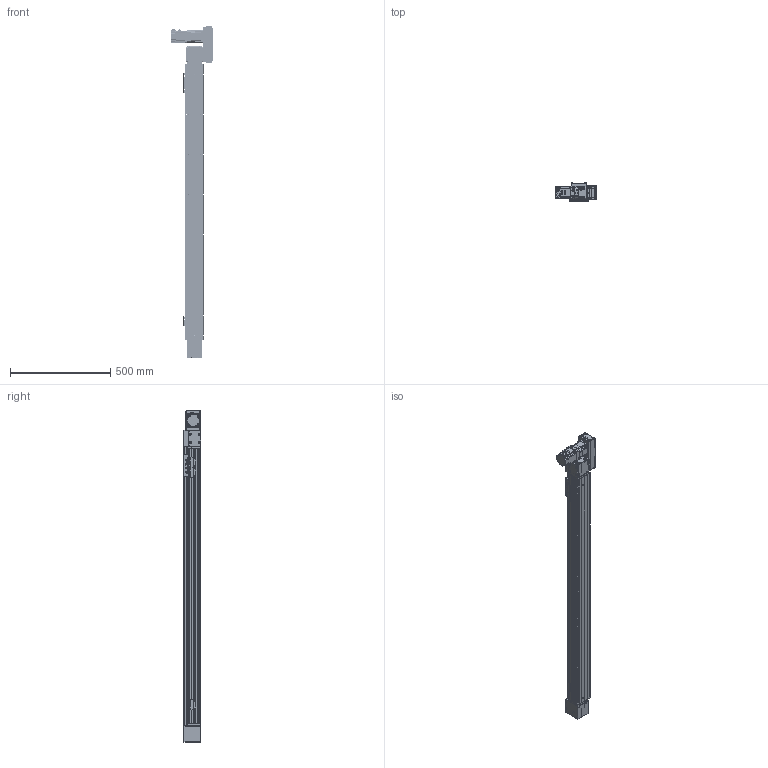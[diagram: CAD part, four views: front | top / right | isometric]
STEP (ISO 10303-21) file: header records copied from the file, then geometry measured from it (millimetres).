
FILE_DESCRIPTION(/* description */ ('MANUFACTURE'),/* implementation_level */ '2;1');
FILE_NAME(/* name */ '\\192.168.0.160\disk1\HAN SHIN Master\B-설계부문\C-표준\B-2024년\BC02-표준도면\+로봇 개선표준도면\홈페이지 표준 도면\홈페이지 최종 작업 폴더\3D\HSB\HSB75\R\HSB75-R2G-N-1200-L.stp',/* time_stamp */ '2025-04-30T13:48:54+09:00',/* author */ ('user'),/* organization */ (''),/* preprocessor_version */ 'ST-DEVELOPER v18.1',/* originating_system */ 'Autodesk Inventor 2022',/* authorisation */ 'LIP');
FILE_SCHEMA (('CONFIG_CONTROL_DESIGN'));
Products named in the file (37): HSB75-R2G-N-0500-L; HSB75 BASE; HSB75 TABLE; HSB75 FRONT HOUSING (Connecting); HSB75 FRONT COVER; UPCOVER; HS75 SIDE COVER; HSB75 REAR HOUSING; HSB75 REAR PULLEY; HSB55 REAR SHAFT; HSB55 TENSION PLATE; 6002ZZ; 6002ZZ Outer ring; 6002ZZ Shield1; 6002ZZ Inner ring; 6002ZZ Ball; 6002ZZ Shield2; HG90STOPPER - 27L; HSB55 ACRYL COVER; HSB75 ACRYL COVER-END; PGX62-H-1_3; hg-kr23_; MOTOR PLATE-200W(MITSUBISHI); HR75-LR-BELT COVER(200W); HR75-BELT COVER-COVER; HR75-BELT COVER-COVER2; HR65-BELT COVER-COVER3; HS75 SENSOR DOG-1; NIPPLE CAP(신규); hsr_ftht_A-M6F_grease_nipple_joint; HSB160 BEARING OVER; HSB75 END COVER; HSB75 MOTOR PLATE-N_대칭도; HSB160 SHAFT-1; C-E6304ZZ; SENSOR BRK(EE-SX674A); EE_SX674A
Assembly tree (63 placements, depth 3):
  HSB75-R2G-N-0500-L
    HSB75 BASE
    HSB75 TABLE
    HSB75 FRONT HOUSING (Connecting)
    HSB75 FRONT COVER  x2
    UPCOVER
    HS75 SIDE COVER  x2
    HSB75 REAR HOUSING
    HSB75 REAR PULLEY
    HSB55 REAR SHAFT
    HSB55 TENSION PLATE  x2
    6002ZZ  x2
      6002ZZ Outer ring
      6002ZZ Shield1
      6002ZZ Inner ring
      6002ZZ Ball
      6002ZZ Shield2
    HG90STOPPER - 27L  x2
    HSB55 ACRYL COVER  x3
    HSB75 ACRYL COVER-END
    PGX62-H-1_3
    hg-kr23_
    MOTOR PLATE-200W(MITSUBISHI)
    HR75-LR-BELT COVER(200W)
    HR75-BELT COVER-COVER
    HR75-BELT COVER-COVER2
    HR65-BELT COVER-COVER3  x2
    EE_SX674A  x3
    SENSOR BRK(EE-SX674A)  x3
    HS75 SENSOR DOG-1
    NIPPLE CAP(신규)  x2
    hsr_ftht_A-M6F_grease_nipple_joint  x2
    HSB160 BEARING OVER
    HSB75 END COVER
    HSB75 MOTOR PLATE-N_대칭도
    HSB160 SHAFT-1
    C-E6304ZZ  x2
Bounding box: 206.6 x 89 x 1656 mm (x, y, z)
Volume: 4640494.3 mm3; surface area: 1781772 mm2
Topology: 95 solids, 95 shells, 5250 faces, 14495 edges, 9539 vertices
Faces by surface type: plane 3779, cylinder 1069, cone 296, torus 45, sphere 42, bspline 19
Full cylindrical faces by diameter (mm): 2 x12, 2.013 x4, 2.459 x64, 3 x10, 3.242 x34, 3.3 x5, 3.4 x20, 3.5 x22, 4 x1, 4.134 x53, 4.2 x10, 4.343 x2, 4.5 x30, 4.917 x20, 5 x28, 5.5 x40, 5.6 x10, 5.8 x4, 5.9 x8, 6 x6, 6.5 x4, 7 x1, 8 x9, 8.5 x4, 9 x12, 9.5 x24, 12 x2, 14 x1, 14.2 x1, 14.3 x2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
Entity records: 140882 total; most frequent: CARTESIAN_POINT 27949, ORIENTED_EDGE 23126, DIRECTION 22309, EDGE_CURVE 11563, LINE 8727, VECTOR 8727, VERTEX_POINT 7668, AXIS2_PLACEMENT_3D 6791
